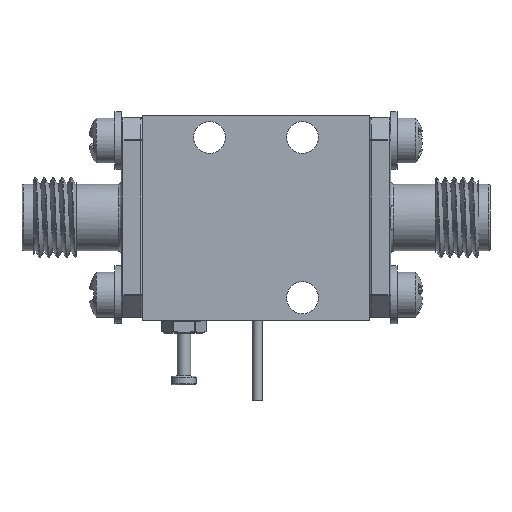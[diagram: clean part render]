
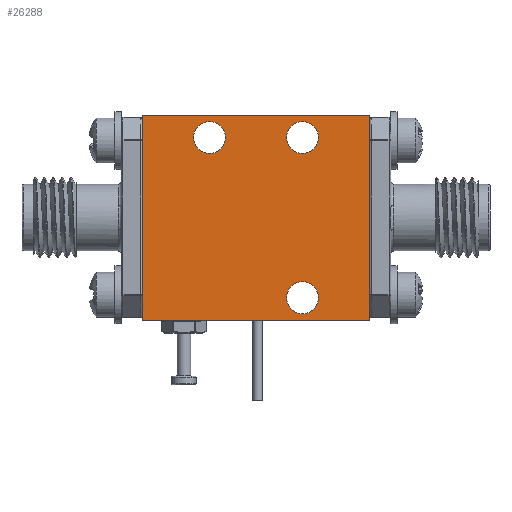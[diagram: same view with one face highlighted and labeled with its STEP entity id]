
A CAD part, front view. The second image highlights one B-rep face of the part: STEP entity #26288.
In plain terms, the highlighted planar face has unit normal (0, -1, 0).
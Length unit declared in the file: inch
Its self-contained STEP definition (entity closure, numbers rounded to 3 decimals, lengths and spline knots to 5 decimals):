
#96 = CARTESIAN_POINT ( 'NONE',  ( 38.89014, 39.2925, 39.22262 ) ) ;
#1763 = CIRCLE ( 'NONE', #14619, 0.05 ) ;
#2325 = ORIENTED_EDGE ( 'NONE', *, *, #31202, .T. ) ;
#2382 = DIRECTION ( 'NONE',  ( -1., 0., 0. ) ) ;
#2553 = AXIS2_PLACEMENT_3D ( 'NONE', #15113, #35621, #6320 ) ;
#2987 = CARTESIAN_POINT ( 'NONE',  ( 38.89014, 39.2925, 39.22262 ) ) ;
#3577 = DIRECTION ( 'NONE',  ( 0., 0., 1. ) ) ;
#3939 = DIRECTION ( 'NONE',  ( 0., 1., 0. ) ) ;
#4206 = CARTESIAN_POINT ( 'NONE',  ( 38.89014, 39.2925, 39.86262 ) ) ;
#4798 = EDGE_LOOP ( 'NONE', ( #2325 ) ) ;
#4945 = EDGE_LOOP ( 'NONE', ( #5041, #32289, #12593, #30405 ) ) ;
#5041 = ORIENTED_EDGE ( 'NONE', *, *, #18587, .F. ) ;
#5241 = CARTESIAN_POINT ( 'NONE',  ( 39.39014, 39.2925, 39.79262 ) ) ;
#5320 = AXIS2_PLACEMENT_3D ( 'NONE', #18480, #3939, #27089 ) ;
#6320 = DIRECTION ( 'NONE',  ( 0., 0., 1. ) ) ;
#6581 = VECTOR ( 'NONE', #2382, 39.37008 ) ;
#7688 = CIRCLE ( 'NONE', #5320, 0.05 ) ;
#8318 = VERTEX_POINT ( 'NONE', #12026 ) ;
#8975 = CARTESIAN_POINT ( 'NONE',  ( 39.39014, 39.2925, 39.34262 ) ) ;
#9579 = FACE_OUTER_BOUND ( 'NONE', #4945, .T. ) ;
#11905 = CARTESIAN_POINT ( 'NONE',  ( 39.39014, 39.2925, 39.84262 ) ) ;
#12026 = CARTESIAN_POINT ( 'NONE',  ( 39.60014, 39.2925, 39.22262 ) ) ;
#12190 = VERTEX_POINT ( 'NONE', #31439 ) ;
#12221 = CARTESIAN_POINT ( 'NONE',  ( 39.39014, 39.2925, 39.29262 ) ) ;
#12593 = ORIENTED_EDGE ( 'NONE', *, *, #15079, .F. ) ;
#12839 = EDGE_CURVE ( 'NONE', #20470, #20470, #22969, .T. ) ;
#14272 = DIRECTION ( 'NONE',  ( 1., 0., 0. ) ) ;
#14619 = AXIS2_PLACEMENT_3D ( 'NONE', #12221, #15241, #3577 ) ;
#14765 = LINE ( 'NONE', #20689, #27737 ) ;
#14853 = LINE ( 'NONE', #28596, #23480 ) ;
#15079 = EDGE_CURVE ( 'NONE', #12190, #8318, #15745, .T. ) ;
#15113 = CARTESIAN_POINT ( 'NONE',  ( 39.24514, 39.2925, 39.54262 ) ) ;
#15175 = VERTEX_POINT ( 'NONE', #4206 ) ;
#15241 = DIRECTION ( 'NONE',  ( 0., 1., 0. ) ) ;
#15745 = LINE ( 'NONE', #24160, #34619 ) ;
#17108 = DIRECTION ( 'NONE',  ( 0., 0., 1. ) ) ;
#17675 = DIRECTION ( 'NONE',  ( 0., 1., 0. ) ) ;
#17976 = FACE_BOUND ( 'NONE', #18020, .T. ) ;
#18020 = EDGE_LOOP ( 'NONE', ( #35799 ) ) ;
#18480 = CARTESIAN_POINT ( 'NONE',  ( 39.10014, 39.2925, 39.79262 ) ) ;
#18587 = EDGE_CURVE ( 'NONE', #21187, #15175, #14765, .T. ) ;
#18966 = DIRECTION ( 'NONE',  ( 0., 0., -1. ) ) ;
#20470 = VERTEX_POINT ( 'NONE', #11905 ) ;
#20689 = CARTESIAN_POINT ( 'NONE',  ( 38.89014, 39.2925, 39.22262 ) ) ;
#21187 = VERTEX_POINT ( 'NONE', #96 ) ;
#21873 = EDGE_CURVE ( 'NONE', #15175, #12190, #14853, .T. ) ;
#21980 = VERTEX_POINT ( 'NONE', #8975 ) ;
#22969 = CIRCLE ( 'NONE', #33368, 0.05 ) ;
#23480 = VECTOR ( 'NONE', #14272, 39.37008 ) ;
#24160 = CARTESIAN_POINT ( 'NONE',  ( 39.60014, 39.2925, 39.22262 ) ) ;
#25227 = ORIENTED_EDGE ( 'NONE', *, *, #12839, .T. ) ;
#26288 = ADVANCED_FACE ( 'NONE', ( #29621, #33085, #17976, #9579 ), #32530, .F. ) ;
#27089 = DIRECTION ( 'NONE',  ( 0., 0., 1. ) ) ;
#27737 = VECTOR ( 'NONE', #28886, 39.37008 ) ;
#28596 = CARTESIAN_POINT ( 'NONE',  ( 38.89014, 39.2925, 39.86262 ) ) ;
#28886 = DIRECTION ( 'NONE',  ( 0., 0., 1. ) ) ;
#29031 = CARTESIAN_POINT ( 'NONE',  ( 39.10014, 39.2925, 39.84262 ) ) ;
#29350 = LINE ( 'NONE', #2987, #6581 ) ;
#29621 = FACE_BOUND ( 'NONE', #4798, .T. ) ;
#30405 = ORIENTED_EDGE ( 'NONE', *, *, #21873, .F. ) ;
#31202 = EDGE_CURVE ( 'NONE', #21980, #21980, #1763, .T. ) ;
#31439 = CARTESIAN_POINT ( 'NONE',  ( 39.60014, 39.2925, 39.86262 ) ) ;
#31528 = VERTEX_POINT ( 'NONE', #29031 ) ;
#32289 = ORIENTED_EDGE ( 'NONE', *, *, #36263, .F. ) ;
#32530 = PLANE ( 'NONE',  #2553 ) ;
#32653 = EDGE_LOOP ( 'NONE', ( #25227 ) ) ;
#33085 = FACE_BOUND ( 'NONE', #32653, .T. ) ;
#33368 = AXIS2_PLACEMENT_3D ( 'NONE', #5241, #17675, #17108 ) ;
#34619 = VECTOR ( 'NONE', #18966, 39.37008 ) ;
#35434 = EDGE_CURVE ( 'NONE', #31528, #31528, #7688, .T. ) ;
#35621 = DIRECTION ( 'NONE',  ( 0., 1., 0. ) ) ;
#35799 = ORIENTED_EDGE ( 'NONE', *, *, #35434, .T. ) ;
#36263 = EDGE_CURVE ( 'NONE', #8318, #21187, #29350, .T. ) ;
